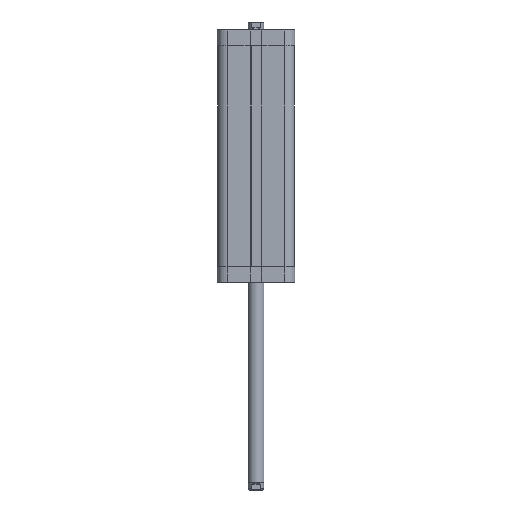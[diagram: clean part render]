
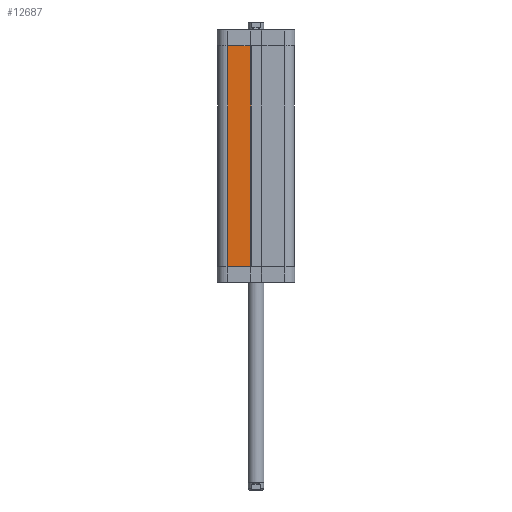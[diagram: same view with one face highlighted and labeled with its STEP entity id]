
A CAD part, front view. The second image highlights one B-rep face of the part: STEP entity #12687.
In plain terms, the highlighted planar face has unit normal (0, -1, 0).
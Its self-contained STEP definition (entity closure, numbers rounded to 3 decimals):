
#8431=CARTESIAN_POINT('',(6.4,-53.8,-11.6));
#8432=VERTEX_POINT('',#8431);
#8440=CARTESIAN_POINT('',(-16.75,-53.8,-11.6));
#8441=VERTEX_POINT('',#8440);
#8442=CARTESIAN_POINT('',(-16.75,-53.8,-11.6));
#8443=DIRECTION('',(1.0,0.0,0.0));
#8444=VECTOR('',#8443,23.15);
#8445=LINE('',#8442,#8444);
#8446=EDGE_CURVE('',#8441,#8432,#8445,.T.);
#9627=CARTESIAN_POINT('',(-16.75,-53.8,209.8));
#9628=VERTEX_POINT('',#9627);
#9636=CARTESIAN_POINT('',(6.3,-53.8,209.8));
#9637=VERTEX_POINT('',#9636);
#9638=CARTESIAN_POINT('',(6.3,-53.8,209.8));
#9639=DIRECTION('',(-1.0,0.0,0.0));
#9640=VECTOR('',#9639,23.05);
#9641=LINE('',#9638,#9640);
#9642=EDGE_CURVE('',#9637,#9628,#9641,.T.);
#10776=CARTESIAN_POINT('',(6.4,-53.8,209.8));
#10777=VERTEX_POINT('',#10776);
#10778=CARTESIAN_POINT('',(6.4,-53.8,209.8));
#10779=DIRECTION('',(-1.0,0.,0.0));
#10780=VECTOR('',#10779,0.1);
#10781=LINE('',#10778,#10780);
#10782=EDGE_CURVE('',#10777,#9637,#10781,.T.);
#12607=CARTESIAN_POINT('',(6.4,-53.8,209.8));
#12608=DIRECTION('',(0.0,0.0,-1.0));
#12609=VECTOR('',#12608,221.4);
#12610=LINE('',#12607,#12609);
#12611=EDGE_CURVE('',#10777,#8432,#12610,.T.);
#12670=CARTESIAN_POINT('',(40.05,-53.8,-11.6));
#12671=DIRECTION('',(0.0,-1.0,0.0));
#12672=DIRECTION('',(0.0,0.0,-1.0));
#12673=AXIS2_PLACEMENT_3D('',#12670,#12671,#12672);
#12674=PLANE('',#12673);
#12675=ORIENTED_EDGE('',*,*,#12611,.F.);
#12676=ORIENTED_EDGE('',*,*,#10782,.T.);
#12677=ORIENTED_EDGE('',*,*,#9642,.T.);
#12678=CARTESIAN_POINT('',(-16.75,-53.8,-11.6));
#12679=DIRECTION('',(0.0,0.0,1.0));
#12680=VECTOR('',#12679,221.4);
#12681=LINE('',#12678,#12680);
#12682=EDGE_CURVE('',#8441,#9628,#12681,.T.);
#12683=ORIENTED_EDGE('',*,*,#12682,.F.);
#12684=ORIENTED_EDGE('',*,*,#8446,.T.);
#12685=EDGE_LOOP('',(#12675,#12676,#12677,#12683,#12684));
#12686=FACE_OUTER_BOUND('',#12685,.T.);
#12687=ADVANCED_FACE('',(#12686),#12674,.T.);
